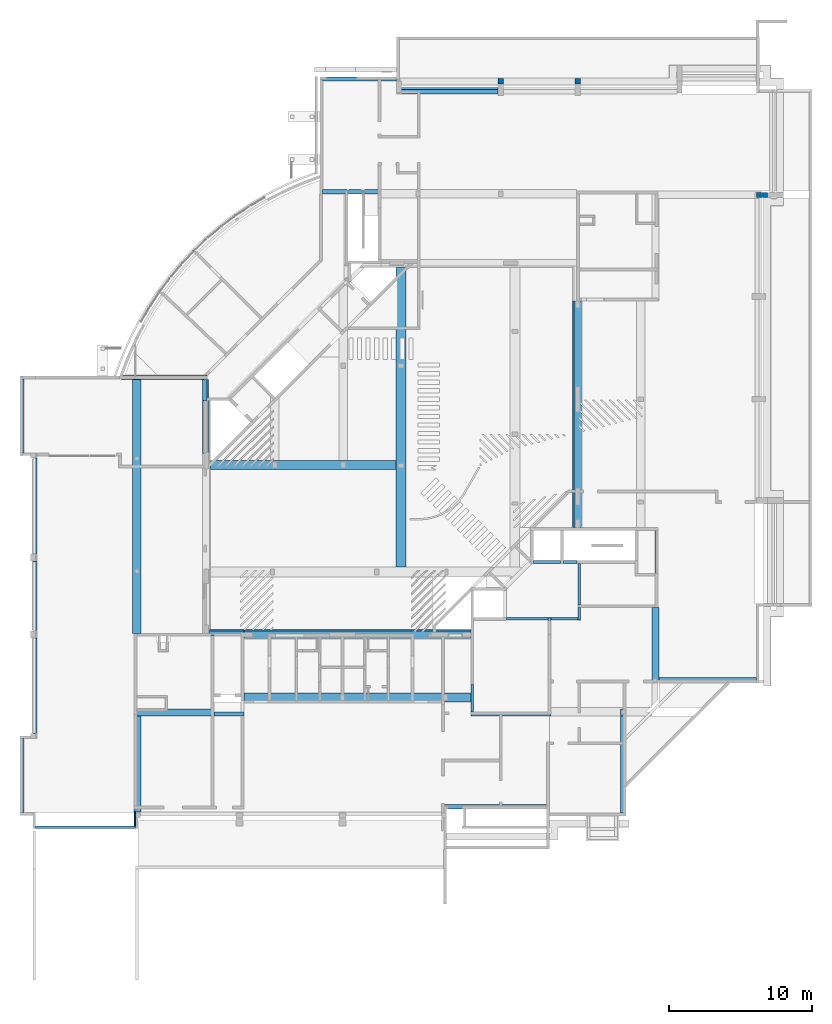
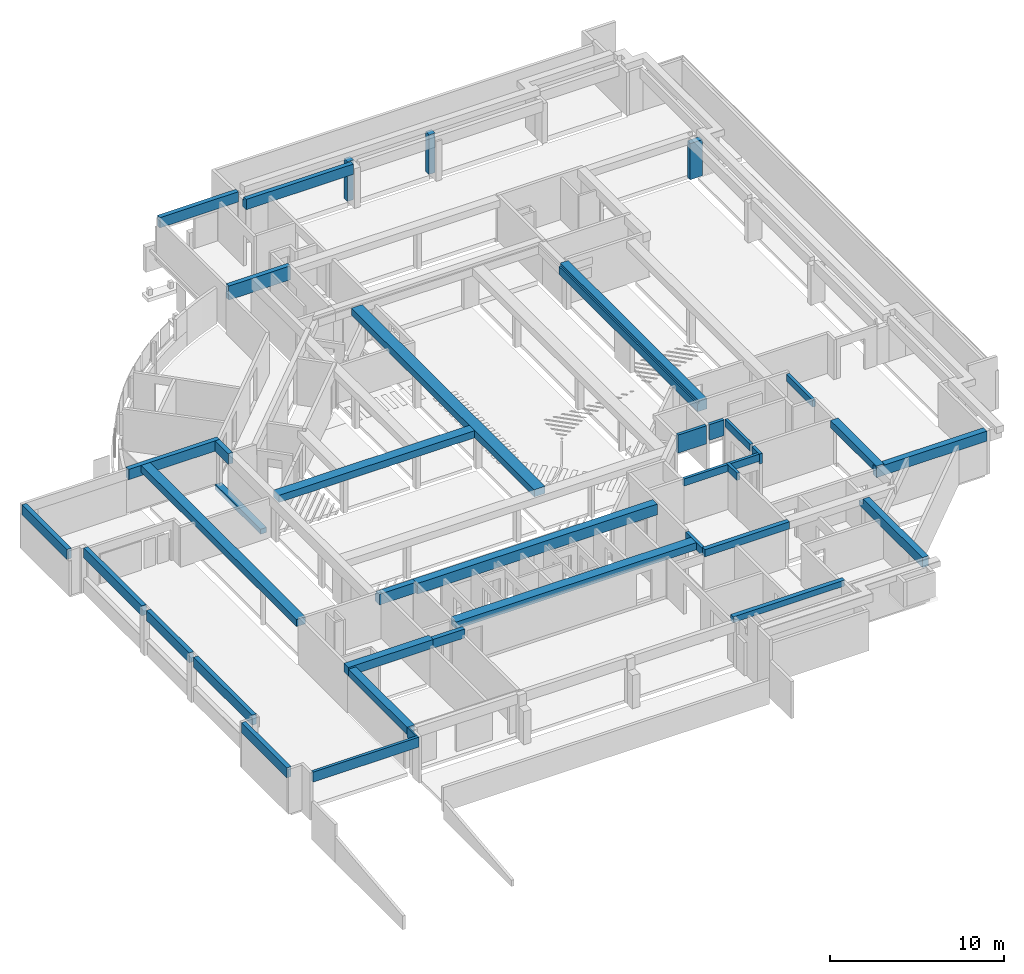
# One storey, part 2 of 22: 37 beams, 3 columns.
"""IFC4X3_ADD2 building model written with IfcOpenShell, lengths in millimetres."""

from ifc_helpers import new_model, si_unit, direction, frame, frame_2d, origin_with_axes, origin_2d_with_axis, place, context, subcontext, project, spatial, polyline, rectangle, outline, extrude, source, transform, mapped, material, type_object, type_shapes, element, save


model = new_model("IFC4X3_ADD2")

# Units and contexts
model_context = context("Model", 3, precision=1e-05, world=origin_with_axes(), true_north=direction((0.0, 1.0)))
body_context = subcontext(model_context, "Body", "Model", "MODEL_VIEW")
ifc_project = project(units=[si_unit("LENGTHUNIT", "METRE", prefix="MILLI"), si_unit("AREAUNIT", "SQUARE_METRE"), si_unit("VOLUMEUNIT", "CUBIC_METRE"), si_unit("PLANEANGLEUNIT", "RADIAN"), si_unit("TIMEUNIT", "SECOND"), si_unit("MASSUNIT", "GRAM")], contexts=[model_context])

# Site, building, storey
site_placement = place(None, origin_with_axes())
site = spatial("IfcSite", under=ifc_project, at=site_placement, Name="Site", CompositionType="ELEMENT")
building_placement = place(site_placement, origin_with_axes())
building = spatial("IfcBuilding", under=site, at=building_placement, Name="IFC Building Story")
storey_placement = place(building_placement, frame((0.0, 0.0, -3240.0), z_axis=(0.0, 0.0, 1.0), x_axis=(1.0, 0.0, 0.0)))
storey = spatial("IfcBuildingStorey", under=building, at=storey_placement, Name="K10", Elevation=-3240.0)

# Columns
ifc_material_1 = material(Name="<Unnamed>")
column_type_1 = type_object("IfcColumnType", Name="BB_XX_Kolom_ rechthoekig_ center-center_GTL_340 mm x 800 mm", PredefinedType="NOTDEFINED")
shared_shape_1 = source(origin_with_axes(), body_context, "Body", "SweptSolid", [
    extrude(rectangle(XDim=800.0, YDim=340.0, at=frame_2d((0.0, 0.0), x_axis=(0.0, 1.0))), frame((0.0, 0.0, -3240.0), z_axis=(0.0, 0.0, 1.0), x_axis=(1.0, 0.0, 0.0)), (0.0, 0.0, 1.0), 2540.0),
])
type_shapes(column_type_1, [shared_shape_1])
column_1_placement = place(storey_placement, frame((305.0, 43405.0, 3240.0), z_axis=(0.0, 0.0, 1.0), x_axis=(0.0, 1.0, 0.0)))
element("IfcColumn", 1, at=column_1_placement, inside=storey, type_object=column_type_1, material=ifc_material_1, Name="BB_XX_Kolom, rechthoekig, center-center_GTL:340 mm x 800 mm", ObjectType="340 mm x 800 mm", PredefinedType="COLUMN", context=body_context, shape_type="MappedRepresentation", body=[
    mapped(shared_shape_1, transform((0.0, 0.0, 0.0))),
])
column_type_2 = type_object("IfcColumnType", Name="BB_XX_Kolom_ rechthoekig_ center-center_GTL_400 mm x 415 mm", PredefinedType="NOTDEFINED")
shared_shape_2 = source(origin_with_axes(), body_context, "Body", "SweptSolid", [
    extrude(rectangle(XDim=415.0, YDim=400.0, at=frame_2d((0.0, 0.0), x_axis=(0.0, 1.0))), frame((-12599.3313868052, 51387.49999999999, -3240.0), z_axis=(0.0, 0.0, 1.0), x_axis=(1.0, 0.0, 0.0)), (0.0, 0.0, 1.0), 2774.8493154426),
])
type_shapes(column_type_2, [shared_shape_2])
column_2_placement = place(storey_placement, frame((0.0, 0.0, 3240.0), z_axis=(0.0, 0.0, 1.0), x_axis=(1.0, 0.0, 0.0)))
element("IfcColumn", 2, at=column_2_placement, inside=storey, type_object=column_type_2, material=ifc_material_1, Name="BB_XX_Kolom, rechthoekig, center-center_GTL:400 mm x 415 mm", ObjectType="400 mm x 415 mm", PredefinedType="COLUMN", context=body_context, shape_type="MappedRepresentation", body=[
    mapped(shared_shape_2, transform((0.0, 0.0, 0.0))),
])
column_type_3 = type_object("IfcColumnType", Name="BB_XX_Kolom_ rechthoekig_ center-center_GTL_400 mm x 415 mm1", PredefinedType="NOTDEFINED")
shared_shape_3 = source(origin_with_axes(), body_context, "Body", "SweptSolid", [
    extrude(rectangle(XDim=415.0, YDim=400.0, at=frame_2d((0.0, 0.0), x_axis=(0.0, 1.0))), frame((-17999.3313868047, 51387.49999999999, -3240.0), z_axis=(0.0, 0.0, 1.0), x_axis=(1.0, 0.0, 0.0)), (0.0, 0.0, 1.0), 2774.8493154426),
])
type_shapes(column_type_3, [shared_shape_3])
column_3_placement = place(storey_placement, frame((0.0, 0.0, 3240.0), z_axis=(0.0, 0.0, 1.0), x_axis=(1.0, 0.0, 0.0)))
element("IfcColumn", 3, at=column_3_placement, inside=storey, type_object=column_type_3, material=ifc_material_1, Name="BB_XX_Kolom, rechthoekig, center-center_GTL:400 mm x 415 mm", ObjectType="400 mm x 415 mm", PredefinedType="COLUMN", context=body_context, shape_type="MappedRepresentation", body=[
    mapped(shared_shape_3, transform((0.0, 0.0, 0.0))),
])

# Beams
ifc_material_2 = material(Name="BB_Beton_Bestaand")
beam_type_1 = type_object("IfcBeamType", Name="BB_XX_Betonbalk_ rechthoekig_ center-center_SFB_190 x 700 mm1", PredefinedType="NOTDEFINED")
shared_shape_4 = source(origin_with_axes(), body_context, "Body", "SweptSolid", [
    extrude(rectangle(XDim=7010.000000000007, YDim=190.0, at=origin_2d_with_axis()), frame((-47099.99999999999, -900.0000000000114, -900.0), z_axis=(0.0, 0.0, 1.0), x_axis=(1.0, 0.0, 0.0)), (0.0, 0.0, 1.0), 700.0),
])
type_shapes(beam_type_1, [shared_shape_4])
beam_1_placement = place(storey_placement, frame((0.0, 0.0, 3240.0), z_axis=(0.0, 0.0, 1.0), x_axis=(1.0, 0.0, 0.0)))
element("IfcBeam", 4, at=beam_1_placement, inside=storey, type_object=beam_type_1, material=ifc_material_2, Name="BB_XX_Betonbalk, rechthoekig, center-center_SFB:190 x 700 mm", ObjectType="190 x 700 mm", PredefinedType="BEAM", context=body_context, shape_type="MappedRepresentation", body=[
    mapped(shared_shape_4, transform((0.0, 0.0, 0.0))),
])
beam_type_2 = type_object("IfcBeamType", Name="BB_XX_Betonbalk_ rechthoekig_ center-center_SFB_500 x 500 mm11", PredefinedType="NOTDEFINED")
shared_shape_5 = source(origin_with_axes(), body_context, "Body", "SweptSolid", [
    extrude(rectangle(XDim=6705.00000000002, YDim=500.0, at=frame_2d((0.0, 0.0), x_axis=(0.0, 1.0))), frame((-43449.99999999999, 3547.50000000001, -700.0), z_axis=(0.0, 0.0, 1.0), x_axis=(1.0, 0.0, 0.0)), (0.0, 0.0, 1.0), 500.0),
])
type_shapes(beam_type_2, [shared_shape_5])
beam_2_placement = place(storey_placement, frame((0.0, 0.0, 3240.0), z_axis=(0.0, 0.0, 1.0), x_axis=(1.0, 0.0, 0.0)))
element("IfcBeam", 5, at=beam_2_placement, inside=storey, type_object=beam_type_2, material=ifc_material_2, Name="BB_XX_Betonbalk, rechthoekig, center-center_SFB:500 x 500 mm", ObjectType="500 x 500 mm", PredefinedType="BEAM", context=body_context, shape_type="MappedRepresentation", body=[
    mapped(shared_shape_5, transform((0.0, 0.0, 0.0))),
])
beam_type_3 = type_object("IfcBeamType", Name="BB_XX_Betonbalk_ rechthoekig_ center-center_SFB_300 x 410 mm1", PredefinedType="NOTDEFINED")
shared_shape_6 = source(origin_with_axes(), body_context, "Body", "SweptSolid", [
    extrude(rectangle(XDim=7375.0, YDim=300.0, at=origin_2d_with_axis()), frame((-18287.5, 544.999999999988, -610.0), z_axis=(0.0, 0.0, 1.0), x_axis=(1.0, 0.0, 0.0)), (0.0, 0.0, 1.0), 410.0),
])
type_shapes(beam_type_3, [shared_shape_6])
beam_3_placement = place(storey_placement, frame((0.0, 0.0, 3240.0), z_axis=(0.0, 0.0, 1.0), x_axis=(1.0, 0.0, 0.0)))
element("IfcBeam", 6, at=beam_3_placement, inside=storey, type_object=beam_type_3, material=ifc_material_2, Name="BB_XX_Betonbalk, rechthoekig, center-center_SFB:300 x 410 mm", ObjectType="300 x 410 mm", PredefinedType="BEAM", context=body_context, shape_type="MappedRepresentation", body=[
    mapped(shared_shape_6, transform((0.0, 0.0, 0.0))),
])
beam_type_4 = type_object("IfcBeamType", Name="BB_XX_Betonbalk_ rechthoekig_ center-center_SFB_400 x 700 mm", PredefinedType="NOTDEFINED")
shared_shape_7 = source(origin_with_axes(), body_context, "Body", "SweptSolid", [
    extrude(outline(polyline([(-333.3333333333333, 4703.333333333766), (366.6666666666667, 4703.333333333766), (366.6666666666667, -2101.666666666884), (-33.3333333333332, -2101.666666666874), (-33.3333333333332, -2601.666666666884), (-333.3333333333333, -2601.666666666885), (-333.3333333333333, 4703.333333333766)])), frame((0.0, 4703.333333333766, 333.3333333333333), z_axis=(1.0, 0.0, 0.0), x_axis=(0.0, 0.0, 1.0)), (0.0, 0.0, 1.0), 400.0),
])
type_shapes(beam_type_4, [shared_shape_7])
beam_4_placement = place(storey_placement, frame((-9625.0, 95.0, 2340.0), z_axis=(0.0, 0.0, 1.0), x_axis=(1.0, 0.0, 0.0)))
element("IfcBeam", 7, at=beam_4_placement, inside=storey, type_object=beam_type_4, material=ifc_material_2, Name="BB_XX_Betonbalk, rechthoekig, center-center_SFB:400 x 700 mm", ObjectType="400 x 700 mm", PredefinedType="BEAM", context=body_context, shape_type="MappedRepresentation", body=[
    mapped(shared_shape_7, transform((0.0, 0.0, 0.0))),
])
beam_type_5 = type_object("IfcBeamType", Name="BB_XX_Betonbalk_ rechthoekig_ center-center_SFB_400 x 700 mm1", PredefinedType="NOTDEFINED")
shared_shape_8 = source(origin_with_axes(), body_context, "Body", "SweptSolid", [
    extrude(rectangle(XDim=7305.0, YDim=400.0, at=origin_2d_with_axis()), frame((-3747.5, 9415.000000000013, -900.0), z_axis=(0.0, 0.0, 1.0), x_axis=(1.0, 0.0, 0.0)), (0.0, 0.0, 1.0), 700.0),
])
type_shapes(beam_type_5, [shared_shape_8])
beam_5_placement = place(storey_placement, frame((0.0, 0.0, 3240.0), z_axis=(0.0, 0.0, 1.0), x_axis=(1.0, 0.0, 0.0)))
element("IfcBeam", 8, at=beam_5_placement, inside=storey, type_object=beam_type_5, material=ifc_material_2, Name="BB_XX_Betonbalk, rechthoekig, center-center_SFB:400 x 700 mm", ObjectType="400 x 700 mm 2", PredefinedType="BEAM", context=body_context, shape_type="MappedRepresentation", body=[
    mapped(shared_shape_8, transform((0.0, 0.0, 0.0))),
])
beam_type_6 = type_object("IfcBeamType", Name="BB_XX_Betonbalk_ rechthoekig_ center-center_SFB_500 x 500 mm13", PredefinedType="NOTDEFINED")
shared_shape_9 = source(origin_with_axes(), body_context, "Body", "SweptSolid", [
    extrude(outline(polyline([(200.0, -3390.00000000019), (-299.9999999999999, -3390.00000000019), (-299.9999999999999, 1495.00000000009), (99.99999999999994, 1495.00000000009), (99.99999999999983, 1895.0000000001), (200.0, 1895.0000000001), (200.0, -3390.00000000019)])), frame((0.0, 1895.0, 299.9999999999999), z_axis=(1.0, 0.0, 0.0), x_axis=(0.0, 0.0, 1.0)), (0.0, 0.0, 1.0), 500.0),
])
type_shapes(beam_type_6, [shared_shape_9])
beam_6_placement = place(storey_placement, frame((-7400.0, 9215.0, 2640.0), z_axis=(0.0, 0.0, 1.0), x_axis=(1.0, 0.0, 0.0)))
element("IfcBeam", 9, at=beam_6_placement, inside=storey, type_object=beam_type_6, material=ifc_material_2, Name="BB_XX_Betonbalk, rechthoekig, center-center_SFB:500 x 500 mm", ObjectType="500 x 500 mm 2", PredefinedType="BEAM", context=body_context, shape_type="MappedRepresentation", body=[
    mapped(shared_shape_9, transform((0.0, 0.0, 0.0))),
])
beam_type_7 = type_object("IfcBeamType", Name="BB_XX_Betonbalk_ rechthoekig_ center-center_SFB_500 x 600 mm", PredefinedType="NOTDEFINED")
shared_shape_10 = source(origin_with_axes(), body_context, "Body", "SweptSolid", [
    extrude(rectangle(XDim=5600.000000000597, YDim=500.0, at=origin_2d_with_axis()), frame((-40899.9999999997, 7149.999999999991, -680.0), z_axis=(0.0, 0.0, 1.0), x_axis=(1.0, 0.0, 0.0)), (0.0, 0.0, 1.0), 600.0),
])
type_shapes(beam_type_7, [shared_shape_10])
beam_7_placement = place(storey_placement, frame((0.0, 0.0, 3240.0), z_axis=(0.0, 0.0, 1.0), x_axis=(1.0, 0.0, 0.0)))
element("IfcBeam", 10, at=beam_7_placement, inside=storey, type_object=beam_type_7, material=ifc_material_2, Name="BB_XX_Betonbalk, rechthoekig, center-center_SFB:500 x 600 mm", ObjectType="600 x 500 mm", PredefinedType="BEAM", context=body_context, shape_type="MappedRepresentation", body=[
    mapped(shared_shape_10, transform((0.0, 0.0, 0.0))),
])
beam_type_8 = type_object("IfcBeamType", Name="BB_XX_Betonbalk_ rechthoekig_ center-center_SFB_200 x 1270 mm", PredefinedType="NOTDEFINED")
shared_shape_11 = source(origin_with_axes(), body_context, "Body", "SweptSolid", [
    extrude(rectangle(XDim=1900.0, YDim=200.0, at=origin_2d_with_axis()), frame((-14765.0, 17700.0, -1370.0), z_axis=(0.0, 0.0, 1.0), x_axis=(1.0, 0.0, 0.0)), (0.0, 0.0, 1.0), 1270.0),
])
type_shapes(beam_type_8, [shared_shape_11])
beam_8_placement = place(storey_placement, frame((0.0, 0.0, 3240.0), z_axis=(0.0, 0.0, 1.0), x_axis=(1.0, 0.0, 0.0)))
element("IfcBeam", 11, at=beam_8_placement, inside=storey, type_object=beam_type_8, material=ifc_material_2, Name="BB_XX_Betonbalk, rechthoekig, center-center_SFB:200 x 1270 mm", ObjectType="200 x 1270 mm", PredefinedType="BEAM", context=body_context, shape_type="MappedRepresentation", body=[
    mapped(shared_shape_11, transform((0.0, 0.0, 0.0))),
])
beam_type_9 = type_object("IfcBeamType", Name="BB_XX_Betonbalk_ rechthoekig_ center-center_SFB_620 x 500 mm1", PredefinedType="NOTDEFINED")
shared_shape_12 = source(origin_with_axes(), body_context, "Body", "SweptSolid", [
    extrude(rectangle(XDim=12970.0000000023, YDim=620.0000000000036, at=origin_2d_with_axis()), frame((-31844.99999999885, 24499.99999999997, -900.0), z_axis=(0.0, 0.0, 1.0), x_axis=(1.0, 0.0, 0.0)), (0.0, 0.0, 1.0), 500.0),
])
type_shapes(beam_type_9, [shared_shape_12])
beam_9_placement = place(storey_placement, frame((0.0, 0.0, 3240.0), z_axis=(0.0, 0.0, 1.0), x_axis=(1.0, 0.0, 0.0)))
element("IfcBeam", 12, at=beam_9_placement, inside=storey, type_object=beam_type_9, material=ifc_material_2, Name="BB_XX_Betonbalk, rechthoekig, center-center_SFB:620 x 500 mm", ObjectType="620 x 500 mm", PredefinedType="BEAM", context=body_context, shape_type="MappedRepresentation", body=[
    mapped(shared_shape_12, transform((0.0, 0.0, 0.0))),
])
beam_type_10 = type_object("IfcBeamType", Name="BB_XX_Betonbalk_ rechthoekig_ center-center_SFB_720 x 500 mm1", PredefinedType="NOTDEFINED")
shared_shape_13 = source(origin_with_axes(), body_context, "Body", "SweptSolid", [
    extrude(rectangle(XDim=20969.9959341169, YDim=720.0, at=frame_2d((0.0, 0.0), x_axis=(0.0, 1.0))), frame((-25000.0, 27844.99796705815, -900.0), z_axis=(0.0, 0.0, 1.0), x_axis=(1.0, 0.0, 0.0)), (0.0, 0.0, 1.0), 500.0),
])
type_shapes(beam_type_10, [shared_shape_13])
beam_10_placement = place(storey_placement, frame((0.0, 0.0, 3240.0), z_axis=(0.0, 0.0, 1.0), x_axis=(1.0, 0.0, 0.0)))
element("IfcBeam", 13, at=beam_10_placement, inside=storey, type_object=beam_type_10, material=ifc_material_2, Name="BB_XX_Betonbalk, rechthoekig, center-center_SFB:720 x 500 mm", ObjectType="720 x 500 mm", PredefinedType="BEAM", context=body_context, shape_type="MappedRepresentation", body=[
    mapped(shared_shape_13, transform((0.0, 0.0, 0.0))),
])
beam_type_11 = type_object("IfcBeamType", Name="BB_XX_Betonbalk_ L-vorm_ center-center_SFB_620 x 750 mm - 100 x 200 mm", PredefinedType="NOTDEFINED")
shared_shape_14 = source(origin_with_axes(), body_context, "Body", "SweptSolid", [
    extrude(outline(polyline([(-240.0, 433.3333333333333), (380.0, 433.3333333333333), (380.0, -316.6666666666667), (-140.0000000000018, -316.6666666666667), (-140.0000000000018, -116.6666666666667), (-240.0, -116.6666666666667), (-240.0, 433.3333333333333)])), frame((-12730.0, 20099.9999999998, -516.6666666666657), z_axis=(0.0, 1.0, 0.0), x_axis=(1.0, 0.0, 0.0)), (0.0, 0.0, 1.0), 15900.0000000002),
])
type_shapes(beam_type_11, [shared_shape_14])
beam_11_placement = place(storey_placement, frame((0.0, 0.0, 3240.0), z_axis=(0.0, 0.0, 1.0), x_axis=(1.0, 0.0, 0.0)))
element("IfcBeam", 14, at=beam_11_placement, inside=storey, type_object=beam_type_11, material=ifc_material_2, Name="BB_XX_Betonbalk, L-vorm, center-center_SFB:620 x 750 mm - 100 x 200 mm", ObjectType="620 x 750 mm - 100 x 200 mm", PredefinedType="BEAM", context=body_context, shape_type="MappedRepresentation", body=[
    mapped(shared_shape_14, transform((0.0, 0.0, 0.0))),
])
beam_type_12 = type_object("IfcBeamType", Name="BB_XX_Betonbalk_ rechthoekig_ center-center_SFB_600 x 500 mm47", PredefinedType="NOTDEFINED")
shared_shape_15 = source(origin_with_axes(), body_context, "Body", "SweptSolid", [
    extrude(rectangle(XDim=17799.9959341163, YDim=600.0, at=frame_2d((0.0, 0.0), x_axis=(0.0, 1.0))), frame((-43500.0, 21600.00203294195, -700.0), z_axis=(0.0, 0.0, 1.0), x_axis=(1.0, 0.0, 0.0)), (0.0, 0.0, 1.0), 500.0),
])
type_shapes(beam_type_12, [shared_shape_15])
beam_12_placement = place(storey_placement, frame((0.0, 0.0, 3240.0), z_axis=(0.0, 0.0, 1.0), x_axis=(1.0, 0.0, 0.0)))
element("IfcBeam", 15, at=beam_12_placement, inside=storey, type_object=beam_type_12, material=ifc_material_2, Name="BB_XX_Betonbalk, rechthoekig, center-center_SFB:600 x 500 mm", ObjectType="600 x 500 mm", PredefinedType="BEAM", context=body_context, shape_type="MappedRepresentation", body=[
    mapped(shared_shape_15, transform((0.0, 0.0, 0.0))),
])
beam_type_13 = type_object("IfcBeamType", Name="BB_XX_Betonbalk_ rechthoekig_ center-center_SFB_300 x 750 mm", PredefinedType="NOTDEFINED")
shared_shape_16 = source(origin_with_axes(), body_context, "Body", "SweptSolid", [
    extrude(rectangle(XDim=1500.00000000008, YDim=300.0, at=frame_2d((0.0, 0.0), x_axis=(0.0, 1.0))), frame((-38750.0, 29750.00000000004, -950.0), z_axis=(0.0, 0.0, 1.0), x_axis=(1.0, 0.0, 0.0)), (0.0, 0.0, 1.0), 750.0),
])
type_shapes(beam_type_13, [shared_shape_16])
beam_13_placement = place(storey_placement, frame((0.0, 0.0, 3240.0), z_axis=(0.0, 0.0, 1.0), x_axis=(1.0, 0.0, 0.0)))
element("IfcBeam", 16, at=beam_13_placement, inside=storey, type_object=beam_type_13, material=ifc_material_2, Name="BB_XX_Betonbalk, rechthoekig, center-center_SFB:300 x 750 mm", ObjectType="300 x 750 mm", PredefinedType="BEAM", context=body_context, shape_type="MappedRepresentation", body=[
    mapped(shared_shape_16, transform((0.0, 0.0, 0.0))),
])
beam_type_14 = type_object("IfcBeamType", Name="BB_XX_Betonbalk_ rechthoekig_ center-center_SFB_190 x 500 mm", PredefinedType="NOTDEFINED")
shared_shape_17 = source(origin_with_axes(), body_context, "Body", "SweptSolid", [
    extrude(rectangle(XDim=2899.99999999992, YDim=190.0, at=origin_2d_with_axis()), frame((-4.001776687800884e-11, 0.0, -250.0), z_axis=(0.0, 0.0, 1.0), x_axis=(1.0, 0.0, 0.0)), (0.0, 0.0, 1.0), 500.0),
])
type_shapes(beam_type_14, [shared_shape_17])
beam_14_placement = place(storey_placement, frame((-12505.0, 16150.0, 2910.0), z_axis=(0.0, 0.0, 1.0), x_axis=(0.0, -1.0, 0.0)))
element("IfcBeam", 17, at=beam_14_placement, inside=storey, type_object=beam_type_14, material=ifc_material_2, Name="BB_XX_Betonbalk, rechthoekig, center-center_SFB:190 x 500 mm", ObjectType="190 mm x 500 mm", PredefinedType="BEAM", context=body_context, shape_type="MappedRepresentation", body=[
    mapped(shared_shape_17, transform((0.0, 0.0, 0.0))),
])
beam_type_15 = type_object("IfcBeamType", Name="BB_XX_Betonbalk_ rechthoekig_ center-center_SFB_190 x 500 mm1", PredefinedType="NOTDEFINED")
shared_shape_18 = source(origin_with_axes(), body_context, "Body", "SweptSolid", [
    extrude(rectangle(XDim=2909.99999999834, YDim=190.0, at=origin_2d_with_axis()), frame((-8.29913915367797e-10, 0.0, -250.0), z_axis=(0.0, 0.0, 1.0), x_axis=(1.0, 0.0, 0.0)), (0.0, 0.0, 1.0), 500.0),
])
type_shapes(beam_type_15, [shared_shape_18])
beam_15_placement = place(storey_placement, frame((-16145.0, 13720.0, 2890.0), z_axis=(0.0, 0.0, 1.0), x_axis=(1.0, 0.0, 0.0)))
element("IfcBeam", 18, at=beam_15_placement, inside=storey, type_object=beam_type_15, material=ifc_material_2, Name="BB_XX_Betonbalk, rechthoekig, center-center_SFB:190 x 500 mm", ObjectType="190 mm x 500 mm", PredefinedType="BEAM", context=body_context, shape_type="MappedRepresentation", body=[
    mapped(shared_shape_18, transform((0.0, 0.0, 0.0))),
])
beam_type_16 = type_object("IfcBeamType", Name="BB_XX_Betonbalk_ rechthoekig_ center-center_SFB_190 x 500 mm3", PredefinedType="NOTDEFINED")
shared_shape_19 = source(origin_with_axes(), body_context, "Body", "SweptSolid", [
    extrude(rectangle(XDim=1214.99999999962, YDim=190.0, at=origin_2d_with_axis()), frame((95.0, 0.0, -250.0), z_axis=(0.0, 0.0, 1.0), x_axis=(1.0, 0.0, 0.0)), (0.0, 0.0, 1.0), 500.0),
])
type_shapes(beam_type_16, [shared_shape_19])
beam_16_placement = place(storey_placement, frame((-14595.0, 13112.4999999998, 2890.0), z_axis=(0.0, 0.0, 1.0), x_axis=(0.0, 1.0, 0.0)))
element("IfcBeam", 19, at=beam_16_placement, inside=storey, type_object=beam_type_16, material=ifc_material_2, Name="BB_XX_Betonbalk, rechthoekig, center-center_SFB:190 x 500 mm", ObjectType="190 mm x 500 mm", PredefinedType="BEAM", context=body_context, shape_type="MappedRepresentation", body=[
    mapped(shared_shape_19, transform((0.0, 0.0, 0.0))),
])
beam_type_17 = type_object("IfcBeamType", Name="BB_XX_Betonbalk_ rechthoekig_ center-center_SFB_190 x 500 mm5", PredefinedType="NOTDEFINED")
shared_shape_20 = source(origin_with_axes(), body_context, "Body", "SweptSolid", [
    extrude(rectangle(XDim=1900.00000000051, YDim=190.0, at=origin_2d_with_axis()), frame((2.549995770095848e-10, 0.0, -250.0), z_axis=(0.0, 0.0, 1.0), x_axis=(1.0, 0.0, 0.0)), (0.0, 0.0, 1.0), 500.0),
])
type_shapes(beam_type_17, [shared_shape_20])
beam_17_placement = place(storey_placement, frame((-13550.0, 13720.0, 2890.0), z_axis=(0.0, 0.0, 1.0), x_axis=(1.0, 0.0, 0.0)))
element("IfcBeam", 20, at=beam_17_placement, inside=storey, type_object=beam_type_17, material=ifc_material_2, Name="BB_XX_Betonbalk, rechthoekig, center-center_SFB:190 x 500 mm", ObjectType="190 mm x 500 mm", PredefinedType="BEAM", context=body_context, shape_type="MappedRepresentation", body=[
    mapped(shared_shape_20, transform((0.0, 0.0, 0.0))),
])
beam_type_18 = type_object("IfcBeamType", Name="BB_XX_Betonbalk_ rechthoekig_ center-center_SFB_190 x 700 mm3", PredefinedType="NOTDEFINED")
shared_shape_21 = source(origin_with_axes(), body_context, "Body", "SweptSolid", [
    extrude(rectangle(XDim=875.000000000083, YDim=190.0, at=origin_2d_with_axis()), frame((0.0, 0.0, -350.0), z_axis=(0.0, 0.0, 1.0), x_axis=(1.0, 0.0, 0.0)), (0.0, 0.0, 1.0), 700.0),
])
type_shapes(beam_type_18, [shared_shape_21])
beam_18_placement = place(storey_placement, frame((-12505.0, 14062.4999999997, 2790.0), z_axis=(0.0, 0.0, 1.0), x_axis=(0.0, -1.0, 0.0)))
element("IfcBeam", 21, at=beam_18_placement, inside=storey, type_object=beam_type_18, material=ifc_material_2, Name="BB_XX_Betonbalk, rechthoekig, center-center_SFB:190 x 700 mm", ObjectType="190 x 700 mm", PredefinedType="BEAM", context=body_context, shape_type="MappedRepresentation", body=[
    mapped(shared_shape_21, transform((0.0, 0.0, 0.0))),
])
beam_type_19 = type_object("IfcBeamType", Name="BB_XX_Betonbalk_ rechthoekig_ center-center_SFB_200 x 500 mm11", PredefinedType="NOTDEFINED")
shared_shape_22 = source(origin_with_axes(), body_context, "Body", "SweptSolid", [
    extrude(rectangle(XDim=1920.00000000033, YDim=200.0, at=origin_2d_with_axis()), frame((2.549995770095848e-10, 0.0, -250.0), z_axis=(0.0, 0.0, 1.0), x_axis=(1.0, 0.0, 0.0)), (0.0, 0.0, 1.0), 500.0),
])
type_shapes(beam_type_19, [shared_shape_22])
beam_19_placement = place(storey_placement, frame((-20000.0, 8160.0, 2790.0), z_axis=(0.0, 0.0, 1.0), x_axis=(0.0, -1.0, 0.0)))
element("IfcBeam", 22, at=beam_19_placement, inside=storey, type_object=beam_type_19, material=ifc_material_2, Name="BB_XX_Betonbalk, rechthoekig, center-center_SFB:200 x 500 mm", ObjectType="200 x 500 mm", PredefinedType="BEAM", context=body_context, shape_type="MappedRepresentation", body=[
    mapped(shared_shape_22, transform((0.0, 0.0, 0.0))),
])
beam_type_20 = type_object("IfcBeamType", Name="BB_XX_Betonbalk_ rechthoekig_ center-center_SFB_620 x 500 mm3", PredefinedType="NOTDEFINED")
shared_shape_23 = source(origin_with_axes(), body_context, "Body", "SweptSolid", [
    extrude(rectangle(XDim=15900.0000000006, YDim=619.9999999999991, at=origin_2d_with_axis()), frame((-28049.9999999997, 8200.0, -700.0), z_axis=(0.0, 0.0, 1.0), x_axis=(1.0, 0.0, 0.0)), (0.0, 0.0, 1.0), 500.0),
])
type_shapes(beam_type_20, [shared_shape_23])
beam_20_placement = place(storey_placement, frame((0.0, 0.0, 3240.0), z_axis=(0.0, 0.0, 1.0), x_axis=(1.0, 0.0, 0.0)))
element("IfcBeam", 23, at=beam_20_placement, inside=storey, type_object=beam_type_20, material=ifc_material_2, Name="BB_XX_Betonbalk, rechthoekig, center-center_SFB:620 x 500 mm", ObjectType="620 x 500 mm", PredefinedType="BEAM", context=body_context, shape_type="MappedRepresentation", body=[
    mapped(shared_shape_23, transform((0.0, 0.0, 0.0))),
])
beam_type_21 = type_object("IfcBeamType", Name="BB_XX_Betonbalk_ rechthoekig_ center-center_SFB_300 x 620 mm", PredefinedType="NOTDEFINED")
shared_shape_24 = source(origin_with_axes(), body_context, "Body", "SweptSolid", [
    extrude(rectangle(XDim=2099.999999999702, YDim=300.0, at=origin_2d_with_axis()), frame((-37050.00000000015, 7049.999999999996, -699.9999999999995), z_axis=(0.0, 0.0, 1.0), x_axis=(1.0, 0.0, 0.0)), (0.0, 0.0, 1.0), 619.9999999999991),
])
type_shapes(beam_type_21, [shared_shape_24])
beam_21_placement = place(storey_placement, frame((0.0, 0.0, 3240.0), z_axis=(0.0, 0.0, 1.0), x_axis=(1.0, 0.0, 0.0)))
element("IfcBeam", 24, at=beam_21_placement, inside=storey, type_object=beam_type_21, material=ifc_material_2, Name="BB_XX_Betonbalk, rechthoekig, center-center_SFB:300 x 620 mm", ObjectType="300 x 620 mm", PredefinedType="BEAM", context=body_context, shape_type="MappedRepresentation", body=[
    mapped(shared_shape_24, transform((0.0, 0.0, 0.0))),
])
beam_type_22 = type_object("IfcBeamType", Name="BB_XX_Betonbalk_ rechthoekig_ center-center_SFB_300 x 500 mm7", PredefinedType="NOTDEFINED")
shared_shape_25 = source(origin_with_axes(), body_context, "Body", "SweptSolid", [
    extrude(rectangle(XDim=5599.999999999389, YDim=300.0, at=origin_2d_with_axis()), frame((-17300.00000000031, 7049.99999999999, -600.0), z_axis=(0.0, 0.0, 1.0), x_axis=(1.0, 0.0, 0.0)), (0.0, 0.0, 1.0), 499.9999999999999),
])
type_shapes(beam_type_22, [shared_shape_25])
beam_22_placement = place(storey_placement, frame((0.0, 0.0, 3240.0), z_axis=(0.0, 0.0, 1.0), x_axis=(1.0, 0.0, 0.0)))
element("IfcBeam", 25, at=beam_22_placement, inside=storey, type_object=beam_type_22, material=ifc_material_2, Name="BB_XX_Betonbalk, rechthoekig, center-center_SFB:300 x 500 mm", ObjectType="300 x 500 mm", PredefinedType="BEAM", context=body_context, shape_type="MappedRepresentation", body=[
    mapped(shared_shape_25, transform((0.0, 0.0, 0.0))),
])
beam_type_23 = type_object("IfcBeamType", Name="BB_XX_Betonbalk_ rechthoekig_ center-center_SFB_200 x 500 mm15", PredefinedType="NOTDEFINED")
shared_shape_26 = source(origin_with_axes(), body_context, "Body", "SweptSolid", [
    extrude(rectangle(XDim=3000.000000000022, YDim=200.0, at=frame_2d((0.0, 0.0), x_axis=(0.0, 1.0))), frame((-7099.999999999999, 18399.99999999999, -700.0), z_axis=(0.0, 0.0, 1.0), x_axis=(1.0, 0.0, 0.0)), (0.0, 0.0, 1.0), 500.0),
])
type_shapes(beam_type_23, [shared_shape_26])
beam_23_placement = place(storey_placement, frame((0.0, 0.0, 3240.0), z_axis=(0.0, 0.0, 1.0), x_axis=(1.0, 0.0, 0.0)))
element("IfcBeam", 26, at=beam_23_placement, inside=storey, type_object=beam_type_23, material=ifc_material_2, Name="BB_XX_Betonbalk, rechthoekig, center-center_SFB:200 x 500 mm", ObjectType="200 x 500 mm", PredefinedType="BEAM", context=body_context, shape_type="MappedRepresentation", body=[
    mapped(shared_shape_26, transform((0.0, 0.0, 0.0))),
])
beam_type_24 = type_object("IfcBeamType", Name="BB_XX_Betonbalk_ rechthoekig_ center-center_SFB_290 x 720 mm", PredefinedType="NOTDEFINED")
shared_shape_27 = source(origin_with_axes(), body_context, "Body", "SweptSolid", [
    extrude(rectangle(XDim=5199.99999999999, YDim=290.0, at=origin_2d_with_axis()), frame((-5.002220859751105e-12, 0.0, -360.0), z_axis=(0.0, 0.0, 1.0), x_axis=(1.0, 0.0, 0.0)), (0.0, 0.0, 1.0), 720.0),
])
type_shapes(beam_type_24, [shared_shape_27])
beam_24_placement = place(storey_placement, frame((-27900.0, 51550.0, 2680.0), z_axis=(0.0, 0.0, 1.0), x_axis=(1.0, 0.0, 0.0)))
element("IfcBeam", 27, at=beam_24_placement, inside=storey, type_object=beam_type_24, material=ifc_material_2, Name="BB_XX_Betonbalk, rechthoekig, center-center_SFB:290 x 720 mm", ObjectType="290 x 720 mm", PredefinedType="BEAM", context=body_context, shape_type="MappedRepresentation", body=[
    mapped(shared_shape_27, transform((0.0, 0.0, 0.0))),
])
beam_type_25 = type_object("IfcBeamType", Name="BB_XX_Betonbalk_ rechthoekig_ center-center_SFB_300 x 980 mm", PredefinedType="NOTDEFINED")
shared_shape_28 = source(origin_with_axes(), body_context, "Body", "SweptSolid", [
    extrude(rectangle(XDim=4099.99999999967, YDim=300.0, at=origin_2d_with_axis()), frame((-1.650732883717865e-10, 0.0, -490.0), z_axis=(0.0, 0.0, 1.0), x_axis=(1.0, 0.0, 0.0)), (0.0, 0.0, 1.0), 980.0),
])
type_shapes(beam_type_25, [shared_shape_28])
beam_25_placement = place(storey_placement, frame((-28450.0, 43650.0, 2550.0), z_axis=(0.0, 0.0, 1.0), x_axis=(1.0, 0.0, 0.0)))
element("IfcBeam", 28, at=beam_25_placement, inside=storey, type_object=beam_type_25, material=ifc_material_2, Name="BB_XX_Betonbalk, rechthoekig, center-center_SFB:300 x 980 mm", ObjectType="300 x 980 mm", PredefinedType="BEAM", context=body_context, shape_type="MappedRepresentation", body=[
    mapped(shared_shape_28, transform((0.0, 0.0, 0.0))),
])
beam_type_26 = type_object("IfcBeamType", Name="BB_XX_Betonbalk_ rechthoekig_ center-center_SFB_300 x 720 mm", PredefinedType="NOTDEFINED")
shared_shape_29 = source(origin_with_axes(), body_context, "Body", "SweptSolid", [
    extrude(rectangle(XDim=6026.838768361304, YDim=300.0, at=origin_2d_with_axis()), frame((-41612.31795206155, 30649.99999999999, -920.0), z_axis=(0.0, 0.0, 1.0), x_axis=(1.0, 0.0, 0.0)), (0.0, 0.0, 1.0), 720.0),
])
type_shapes(beam_type_26, [shared_shape_29])
beam_26_placement = place(storey_placement, frame((0.0, 0.0, 3240.0), z_axis=(0.0, 0.0, 1.0), x_axis=(1.0, 0.0, 0.0)))
element("IfcBeam", 29, at=beam_26_placement, inside=storey, type_object=beam_type_26, material=ifc_material_2, Name="BB_XX_Betonbalk, rechthoekig, center-center_SFB:300 x 720 mm", ObjectType="300 x 720 mm", PredefinedType="BEAM", context=body_context, shape_type="MappedRepresentation", body=[
    mapped(shared_shape_29, transform((0.0, 0.0, 0.0))),
])
beam_type_27 = type_object("IfcBeamType", Name="BB_XX_Betonbalk_ rechthoekig_ center-center_SFB_290 x 700 mm1", PredefinedType="NOTDEFINED")
shared_shape_30 = source(origin_with_axes(), body_context, "Body", "SweptSolid", [
    extrude(rectangle(XDim=5210.00000000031, YDim=290.0, at=origin_2d_with_axis()), frame((1.550688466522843e-10, 0.0, -350.0), z_axis=(0.0, 0.0, 1.0), x_axis=(1.0, 0.0, 0.0)), (0.0, 0.0, 1.0), 700.0),
])
type_shapes(beam_type_27, [shared_shape_30])
beam_27_placement = place(storey_placement, frame((-51550.0, 2735.0, 2690.0), z_axis=(0.0, 0.0, 1.0), x_axis=(0.0, -1.0, 0.0)))
element("IfcBeam", 30, at=beam_27_placement, inside=storey, type_object=beam_type_27, material=ifc_material_2, Name="BB_XX_Betonbalk, rechthoekig, center-center_SFB:290 x 700 mm", ObjectType="290 x 700 mm", PredefinedType="BEAM", context=body_context, shape_type="MappedRepresentation", body=[
    mapped(shared_shape_30, transform((0.0, 0.0, 0.0))),
])
beam_type_28 = type_object("IfcBeamType", Name="BB_XX_Betonbalk_ rechthoekig_ center-center_SFB_290 x 700 mm3", PredefinedType="NOTDEFINED")
shared_shape_31 = source(origin_with_axes(), body_context, "Body", "SweptSolid", [
    extrude(rectangle(XDim=6704.99999999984, YDim=289.9999999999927, at=frame_2d((0.0, 0.0), x_axis=(0.0, 1.0))), frame((-50649.99999999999, 9032.50000000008, -900.0), z_axis=(0.0, 0.0, 1.0), x_axis=(1.0, 0.0, 0.0)), (0.0, 0.0, 1.0), 700.0),
])
type_shapes(beam_type_28, [shared_shape_31])
beam_28_placement = place(storey_placement, frame((0.0, 0.0, 3240.0), z_axis=(0.0, 0.0, 1.0), x_axis=(1.0, 0.0, 0.0)))
element("IfcBeam", 31, at=beam_28_placement, inside=storey, type_object=beam_type_28, material=ifc_material_2, Name="BB_XX_Betonbalk, rechthoekig, center-center_SFB:290 x 700 mm", ObjectType="290 x 700 mm", PredefinedType="BEAM", context=body_context, shape_type="MappedRepresentation", body=[
    mapped(shared_shape_31, transform((0.0, 0.0, 0.0))),
])
beam_type_29 = type_object("IfcBeamType", Name="BB_XX_Betonbalk_ rechthoekig_ center-center_SFB_290 x 700 mm7", PredefinedType="NOTDEFINED")
shared_shape_32 = source(origin_with_axes(), body_context, "Body", "SweptSolid", [
    extrude(rectangle(XDim=4909.999999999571, YDim=289.9999999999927, at=frame_2d((0.0, 0.0), x_axis=(0.0, 1.0))), frame((-50650.00000000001, 15330.00000000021, -900.0), z_axis=(0.0, 0.0, 1.0), x_axis=(1.0, 0.0, 0.0)), (0.0, 0.0, 1.0), 700.0),
])
type_shapes(beam_type_29, [shared_shape_32])
beam_29_placement = place(storey_placement, frame((0.0, 0.0, 3240.0), z_axis=(0.0, 0.0, 1.0), x_axis=(1.0, 0.0, 0.0)))
element("IfcBeam", 32, at=beam_29_placement, inside=storey, type_object=beam_type_29, material=ifc_material_2, Name="BB_XX_Betonbalk, rechthoekig, center-center_SFB:290 x 700 mm", ObjectType="290 x 700 mm", PredefinedType="BEAM", context=body_context, shape_type="MappedRepresentation", body=[
    mapped(shared_shape_32, transform((0.0, 0.0, 0.0))),
])
beam_type_30 = type_object("IfcBeamType", Name="BB_XX_Betonbalk_ rechthoekig_ center-center_SFB_290 x 700 mm15", PredefinedType="NOTDEFINED")
shared_shape_33 = source(origin_with_axes(), body_context, "Body", "SweptSolid", [
    extrude(rectangle(XDim=6680.000000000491, YDim=289.9999999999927, at=frame_2d((0.0, 0.0), x_axis=(0.0, 1.0))), frame((-50649.99999999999, 21649.99999999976, -900.0), z_axis=(0.0, 0.0, 1.0), x_axis=(1.0, 0.0, 0.0)), (0.0, 0.0, 1.0), 700.0),
])
type_shapes(beam_type_30, [shared_shape_33])
beam_30_placement = place(storey_placement, frame((0.0, 0.0, 3240.0), z_axis=(0.0, 0.0, 1.0), x_axis=(1.0, 0.0, 0.0)))
element("IfcBeam", 33, at=beam_30_placement, inside=storey, type_object=beam_type_30, material=ifc_material_2, Name="BB_XX_Betonbalk, rechthoekig, center-center_SFB:290 x 700 mm", ObjectType="290 x 700 mm", PredefinedType="BEAM", context=body_context, shape_type="MappedRepresentation", body=[
    mapped(shared_shape_33, transform((0.0, 0.0, 0.0))),
])
beam_type_31 = type_object("IfcBeamType", Name="BB_XX_Betonbalk_ rechthoekig_ center-center_SFB_500 x 700 mm", PredefinedType="NOTDEFINED")
shared_shape_34 = source(origin_with_axes(), body_context, "Body", "SweptSolid", [
    extrude(rectangle(XDim=999.999999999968, YDim=104.9999999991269, at=frame_2d((0.0, 0.0), x_axis=(0.0, 1.0))), frame((-43647.4999999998, -305.000000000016, -900.0), z_axis=(0.0, 0.0, 1.0), x_axis=(1.0, 0.0, 0.0)), (0.0, 0.0, 1.0), 700.0),
])
type_shapes(beam_type_31, [shared_shape_34])
beam_31_placement = place(storey_placement, frame((0.0, 0.0, 3240.0), z_axis=(0.0, 0.0, 1.0), x_axis=(1.0, 0.0, 0.0)))
element("IfcBeam", 34, at=beam_31_placement, inside=storey, type_object=beam_type_31, material=ifc_material_2, Name="BB_XX_Betonbalk, rechthoekig, center-center_SFB:500 x 700 mm", ObjectType="500 x 700 mm", PredefinedType="BEAM", context=body_context, shape_type="MappedRepresentation", body=[
    mapped(shared_shape_34, transform((0.0, 0.0, 0.0))),
])
beam_type_32 = type_object("IfcBeamType", Name="BB_XX_Betonbalk_ rechthoekig_ center-center_SFB_290 x 700 mm17", PredefinedType="NOTDEFINED")
shared_shape_35 = source(origin_with_axes(), body_context, "Body", "SweptSolid", [
    extrude(rectangle(XDim=5180.0, YDim=289.9999999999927, at=frame_2d((0.0, 0.0), x_axis=(0.0, 1.0))), frame((-51549.99999999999, 27920.0, -900.0), z_axis=(0.0, 0.0, 1.0), x_axis=(1.0, 0.0, 0.0)), (0.0, 0.0, 1.0), 700.0),
])
type_shapes(beam_type_32, [shared_shape_35])
beam_32_placement = place(storey_placement, frame((0.0, 0.0, 3240.0), z_axis=(0.0, 0.0, 1.0), x_axis=(1.0, 0.0, 0.0)))
element("IfcBeam", 35, at=beam_32_placement, inside=storey, type_object=beam_type_32, material=ifc_material_2, Name="BB_XX_Betonbalk, rechthoekig, center-center_SFB:290 x 700 mm", ObjectType="290 x 700 mm", PredefinedType="BEAM", context=body_context, shape_type="MappedRepresentation", body=[
    mapped(shared_shape_35, transform((0.0, 0.0, 0.0))),
])
beam_type_33 = type_object("IfcBeamType", Name="BB_XX_Betonbalk_ rechthoekig_ center-center_SFB_200 x 1100 mm", PredefinedType="NOTDEFINED")
shared_shape_36 = source(origin_with_axes(), body_context, "Body", "SweptSolid", [
    extrude(rectangle(XDim=960.000000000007, YDim=200.0, at=origin_2d_with_axis()), frame((3.524291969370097e-12, 0.0, -550.0), z_axis=(0.0, 0.0, 1.0), x_axis=(1.0, 0.0, 0.0)), (0.0, 0.0, 1.0), 1100.0),
])
type_shapes(beam_type_33, [shared_shape_36])
beam_33_placement = place(storey_placement, frame((-13135.0, 17700.0, 2590.0), z_axis=(0.0, 0.0, 1.0), x_axis=(1.0, 0.0, 0.0)))
element("IfcBeam", 36, at=beam_33_placement, inside=storey, type_object=beam_type_33, material=ifc_material_2, Name="BB_XX_Betonbalk, rechthoekig, center-center_SFB:200 x 1100 mm", ObjectType="200 x 1100 mm", PredefinedType="BEAM", context=body_context, shape_type="MappedRepresentation", body=[
    mapped(shared_shape_36, transform((0.0, 0.0, 0.0))),
])
beam_type_34 = type_object("IfcBeamType", Name="BB_XX_Betonbalk_ rechthoekig_ center-center_SFB_400 x 360 mm", PredefinedType="NOTDEFINED")
shared_shape_37 = source(origin_with_axes(), body_context, "Body", "SweptSolid", [
    extrude(rectangle(XDim=5200.0, YDim=400.0, at=frame_2d((0.0, 0.0), x_axis=(0.0, 1.0))), frame((-38700.0, 27900.0, -3600.0), z_axis=(0.0, 0.0, 1.0), x_axis=(1.0, 0.0, 0.0)), (0.0, 0.0, 1.0), 360.0),
])
type_shapes(beam_type_34, [shared_shape_37])
beam_34_placement = place(storey_placement, frame((0.0, 0.0, 3240.0), z_axis=(0.0, 0.0, 1.0), x_axis=(1.0, 0.0, 0.0)))
element("IfcBeam", 37, at=beam_34_placement, inside=storey, type_object=beam_type_34, material=ifc_material_2, Name="BB_XX_Betonbalk, rechthoekig, center-center_SFB:400 x 360 mm", ObjectType="400 x 360 mm", PredefinedType="BEAM", context=body_context, shape_type="MappedRepresentation", body=[
    mapped(shared_shape_37, transform((0.0, 0.0, 0.0))),
])
beam_type_35 = type_object("IfcBeamType", Name="BB_XX_Betonbalk_ L-vorm_ center-center_SFB_460 x 720 mm - 170 x 250 mm3", PredefinedType="NOTDEFINED")
shared_shape_38 = source(origin_with_axes(), body_context, "Body", "SweptSolid", [
    extrude(outline(polyline([(323.3333333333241, 250.0000000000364), (323.3333333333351, -39.99999999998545), (73.33333333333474, -40.00000000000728), (73.33333333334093, -210.0), (-396.6666666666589, -210.0000000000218), (-396.666666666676, 249.9999999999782), (323.3333333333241, 250.0000000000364)])), frame((-25295.0, 50755.0, -523.3333333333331), z_axis=(1.0, 0.0, 0.0), x_axis=(0.0, 0.0, 1.0)), (0.0, 0.0, 1.0), 7095.668613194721),
])
type_shapes(beam_type_35, [shared_shape_38])
beam_35_placement = place(storey_placement, frame((0.0, 0.0, 3240.0), z_axis=(0.0, 0.0, 1.0), x_axis=(1.0, 0.0, 0.0)))
element("IfcBeam", 38, at=beam_35_placement, inside=storey, type_object=beam_type_35, material=ifc_material_2, Name="BB_XX_Betonbalk, L-vorm, center-center_SFB:460 x 720 mm - 170 x 250 mm", ObjectType="460 x 720 mm - 170 x 250 mm", PredefinedType="BEAM", context=body_context, shape_type="MappedRepresentation", body=[
    mapped(shared_shape_38, transform((0.0, 0.0, 0.0))),
])
beam_type_36 = type_object("IfcBeamType", Name="BB_XX_Betonbalk_ L-vorm_ center-center_SFB_620 x 750 mm - 100 x 200 mm1", PredefinedType="NOTDEFINED")
shared_shape_39 = source(origin_with_axes(), body_context, "Body", "SweptSolid", [
    extrude(outline(polyline([(316.6666666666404, 380.0000000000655), (316.6666666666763, -139.9999999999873), (116.6666666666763, -140.0000000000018), (116.6666666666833, -240.0000000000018), (-433.3333333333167, -240.0000000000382), (-433.3333333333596, 379.9999999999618), (316.6666666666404, 380.0000000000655)])), frame((-36000.0, 12729.99999999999, -516.6666666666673), z_axis=(1.0, 0.0, 0.0), x_axis=(0.0, 0.0, 1.0)), (0.0, 0.0, 1.0), 15900.0000000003),
])
type_shapes(beam_type_36, [shared_shape_39])
beam_36_placement = place(storey_placement, frame((0.0, 0.0, 3240.0), z_axis=(0.0, 0.0, 1.0), x_axis=(1.0, 0.0, 0.0)))
element("IfcBeam", 39, at=beam_36_placement, inside=storey, type_object=beam_type_36, material=ifc_material_2, Name="BB_XX_Betonbalk, L-vorm, center-center_SFB:620 x 750 mm - 100 x 200 mm", ObjectType="620 x 750 mm - 100 x 200 mm 2", PredefinedType="BEAM", context=body_context, shape_type="MappedRepresentation", body=[
    mapped(shared_shape_39, transform((0.0, 0.0, 0.0))),
])
beam_type_37 = type_object("IfcBeamType", Name="BB_XX_Betonbalk_ L-vorm_ center-center_SFB_470 x 750 mm - 100 x 200 mm1", PredefinedType="NOTDEFINED")
shared_shape_40 = source(origin_with_axes(), body_context, "Body", "SweptSolid", [
    extrude(outline(polyline([(316.6666666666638, 280.0000000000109), (316.6666666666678, -89.99999999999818), (116.6666666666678, -90.0), (116.6666666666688, -190.0), (-433.3333333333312, -190.0000000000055), (-433.3333333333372, 279.9999999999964), (316.6666666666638, 280.0000000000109)])), frame((-38430.0, 12780.0, -516.6666666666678), z_axis=(1.0, 0.0, 0.0), x_axis=(0.0, 0.0, 1.0)), (0.0, 0.0, 1.0), 2430.00000000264),
])
type_shapes(beam_type_37, [shared_shape_40])
beam_37_placement = place(storey_placement, frame((0.0, 0.0, 3240.0), z_axis=(0.0, 0.0, 1.0), x_axis=(1.0, 0.0, 0.0)))
element("IfcBeam", 40, at=beam_37_placement, inside=storey, type_object=beam_type_37, material=ifc_material_2, Name="BB_XX_Betonbalk, L-vorm, center-center_SFB:470 x 750 mm - 100 x 200 mm", ObjectType="470 x 750 mm - 100 x 200 mm 2", PredefinedType="BEAM", context=body_context, shape_type="MappedRepresentation", body=[
    mapped(shared_shape_40, transform((0.0, 0.0, 0.0))),
])

save(model, "model.ifc")
